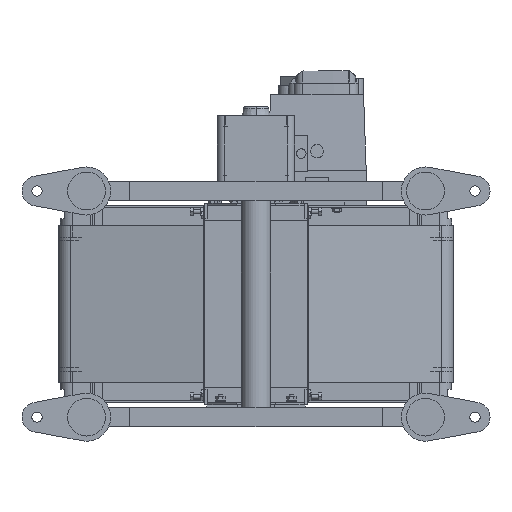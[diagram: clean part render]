
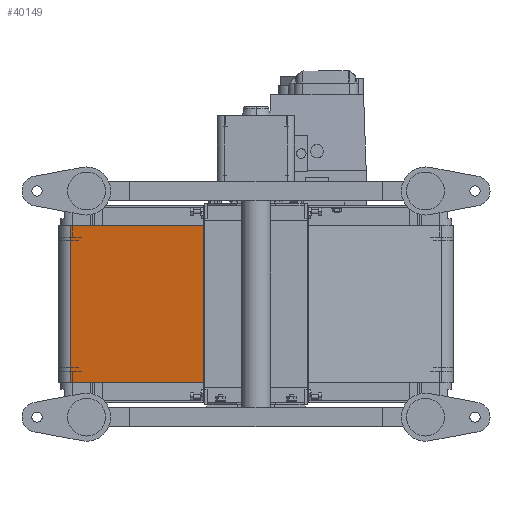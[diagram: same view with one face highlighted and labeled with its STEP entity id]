
A CAD part, front view. The second image highlights one B-rep face of the part: STEP entity #40149.
In plain terms, the highlighted planar face has unit normal (-0.176, -0.984, 0).
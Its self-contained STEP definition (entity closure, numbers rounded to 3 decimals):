
#2387 = CARTESIAN_POINT ( 'NONE',  ( 14.409, -33.936, -100. ) ) ;
#4829 = DIRECTION ( 'NONE',  ( 0., 0., -1. ) ) ;
#11835 = ORIENTED_EDGE ( 'NONE', *, *, #29401, .T. ) ;
#14198 = CARTESIAN_POINT ( 'NONE',  ( 217.987, -70.264, 100. ) ) ;
#15808 = DIRECTION ( 'NONE',  ( -0.984, 0.176, 0. ) ) ;
#17055 = EDGE_CURVE ( 'NONE', #57776, #26427, #52046, .T. ) ;
#18039 = DIRECTION ( 'NONE',  ( 0.984, -0.176, 0. ) ) ;
#22842 = EDGE_CURVE ( 'NONE', #57776, #43931, #62201, .T. ) ;
#24393 = EDGE_LOOP ( 'NONE', ( #11835, #58759, #36226, #42131 ) ) ;
#26427 = VERTEX_POINT ( 'NONE', #14198 ) ;
#26663 = FACE_OUTER_BOUND ( 'NONE', #24393, .T. ) ;
#29401 = EDGE_CURVE ( 'NONE', #43931, #40262, #77974, .T. ) ;
#36226 = ORIENTED_EDGE ( 'NONE', *, *, #17055, .F. ) ;
#37377 = AXIS2_PLACEMENT_3D ( 'NONE', #66673, #54029, #15808 ) ;
#39640 = VECTOR ( 'NONE', #4829, 1000. ) ;
#40060 = CARTESIAN_POINT ( 'NONE',  ( 217.987, -70.264, 100. ) ) ;
#40149 = ADVANCED_FACE ( 'NONE', ( #26663 ), #46944, .F. ) ;
#40262 = VERTEX_POINT ( 'NONE', #43101 ) ;
#41722 = VECTOR ( 'NONE', #53781, 1000. ) ;
#42131 = ORIENTED_EDGE ( 'NONE', *, *, #22842, .T. ) ;
#43101 = CARTESIAN_POINT ( 'NONE',  ( 217.987, -70.264, -100. ) ) ;
#43931 = VERTEX_POINT ( 'NONE', #67949 ) ;
#46944 = PLANE ( 'NONE',  #37377 ) ;
#52046 = LINE ( 'NONE', #68405, #65770 ) ;
#53781 = DIRECTION ( 'NONE',  ( 0., 0., -1. ) ) ;
#54029 = DIRECTION ( 'NONE',  ( 0.176, 0.984, 0. ) ) ;
#57776 = VERTEX_POINT ( 'NONE', #66881 ) ;
#58759 = ORIENTED_EDGE ( 'NONE', *, *, #70355, .F. ) ;
#62201 = LINE ( 'NONE', #74090, #39640 ) ;
#64251 = DIRECTION ( 'NONE',  ( 0.984, -0.176, 0. ) ) ;
#65770 = VECTOR ( 'NONE', #18039, 1000. ) ;
#66673 = CARTESIAN_POINT ( 'NONE',  ( 14.409, -33.936, 100. ) ) ;
#66881 = CARTESIAN_POINT ( 'NONE',  ( 14.409, -33.936, 100. ) ) ;
#67949 = CARTESIAN_POINT ( 'NONE',  ( 14.409, -33.936, -100. ) ) ;
#68405 = CARTESIAN_POINT ( 'NONE',  ( 14.409, -33.936, 100. ) ) ;
#70355 = EDGE_CURVE ( 'NONE', #26427, #40262, #73126, .T. ) ;
#73126 = LINE ( 'NONE', #40060, #41722 ) ;
#74054 = VECTOR ( 'NONE', #64251, 1000. ) ;
#74090 = CARTESIAN_POINT ( 'NONE',  ( 14.409, -33.936, 100. ) ) ;
#77974 = LINE ( 'NONE', #2387, #74054 ) ;
